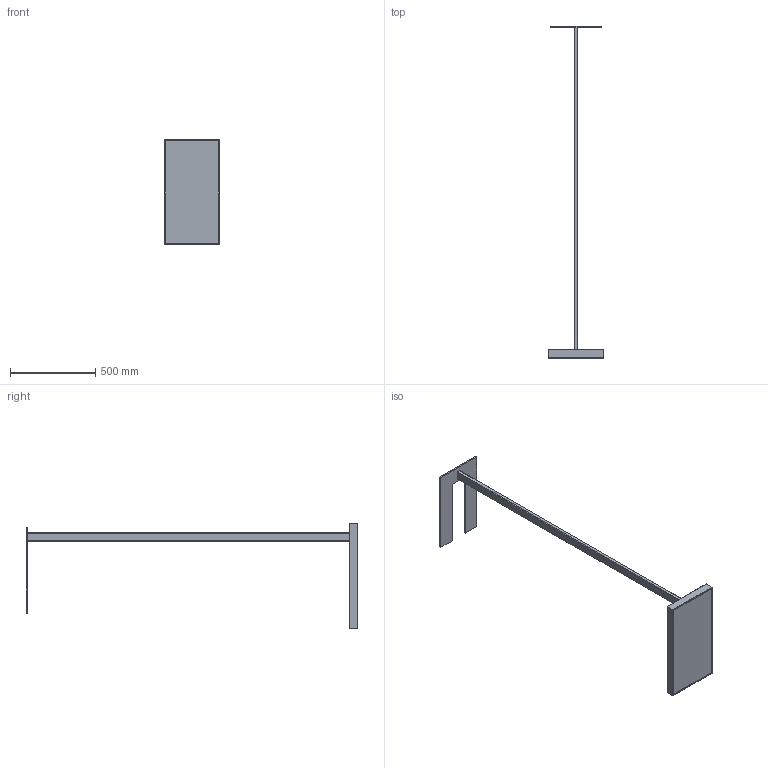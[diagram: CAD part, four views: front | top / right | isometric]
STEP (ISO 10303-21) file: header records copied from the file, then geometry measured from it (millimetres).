
FILE_DESCRIPTION(/* description */ (''),/* implementation_level */ '2;1');
FILE_NAME(/* name */ 'SPECTRASOL_TERRA(primitive).step',/* time_stamp */ '2024-05-27T10:27:23+02:00',/* author */ (''),/* organization */ (''),/* preprocessor_version */ 'ST-DEVELOPER v20',/* originating_system */ 'Autodesk Translation Framework v13.14.0.145',/* authorisation */ '');
FILE_SCHEMA (('AUTOMOTIVE_DESIGN { 1 0 10303 214 3 1 1 }'));
Length unit declared in the file: millimetre
Products named in the file (1): SPECTRASOL_TERRA
Bounding box: 325 x 1941 x 615 mm (x, y, z)
Volume: 12603279.4 mm3; surface area: 989899.2 mm2
Topology: 1 solids, 1 shells, 72 faces, 188 edges, 120 vertices
Faces by surface type: plane 60, cylinder 12
Entity records: 2201 total; most frequent: CARTESIAN_POINT 381, ORIENTED_EDGE 376, DIRECTION 358, EDGE_CURVE 188, LINE 164, VECTOR 164, VERTEX_POINT 120, AXIS2_PLACEMENT_3D 97
